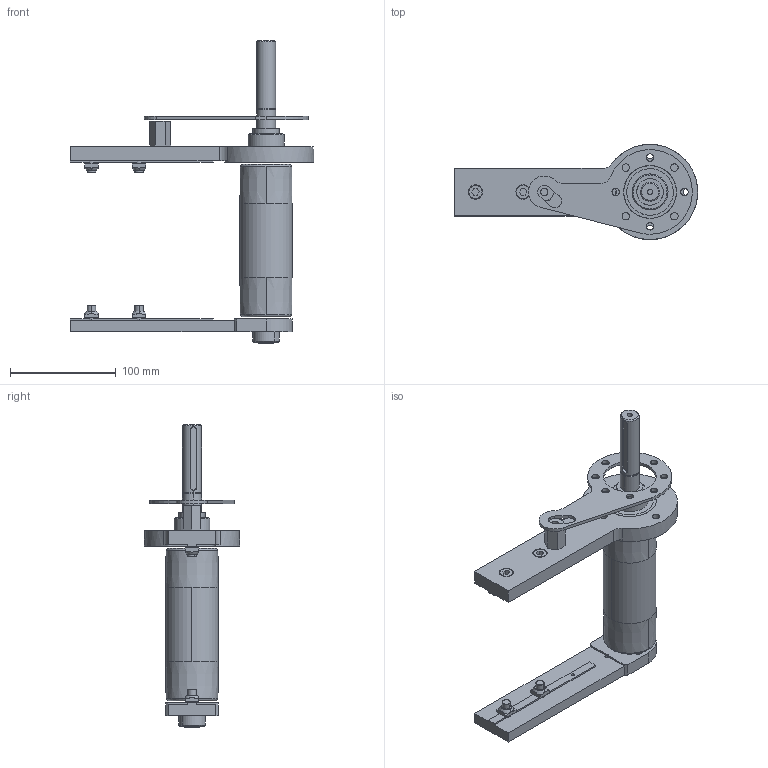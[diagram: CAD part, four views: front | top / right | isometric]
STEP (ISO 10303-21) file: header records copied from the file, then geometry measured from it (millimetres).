
FILE_DESCRIPTION (( 'STEP AP203' ), '1' );
FILE_NAME ('084.050.KD.44.120.STEP', '2014-12-05T10:40:15', ( '' ), ( '' ), 'SwSTEP 2.0', 'SolidWorks 2012', '' );
FILE_SCHEMA (( 'CONFIG_CONTROL_DESIGN' ));
Length unit declared in the file: millimetre
Products named in the file (1): 084.050.KD.44.120
Bounding box: 230 x 90 x 286 mm (x, y, z)
Surface area: 118330.7 mm2 (no closed solid volume)
Topology: 0 solids, 26 shells, 302 faces, 915 edges, 632 vertices
Faces by surface type: plane 142, cylinder 114, cone 22, torus 20, sphere 4
Entity records: 10935 total; most frequent: CARTESIAN_POINT 2456, DIRECTION 1869, ORIENTED_EDGE 1566, EDGE_CURVE 905, AXIS2_PLACEMENT_3D 715, VERTEX_POINT 626, VECTOR 439, LINE 439
